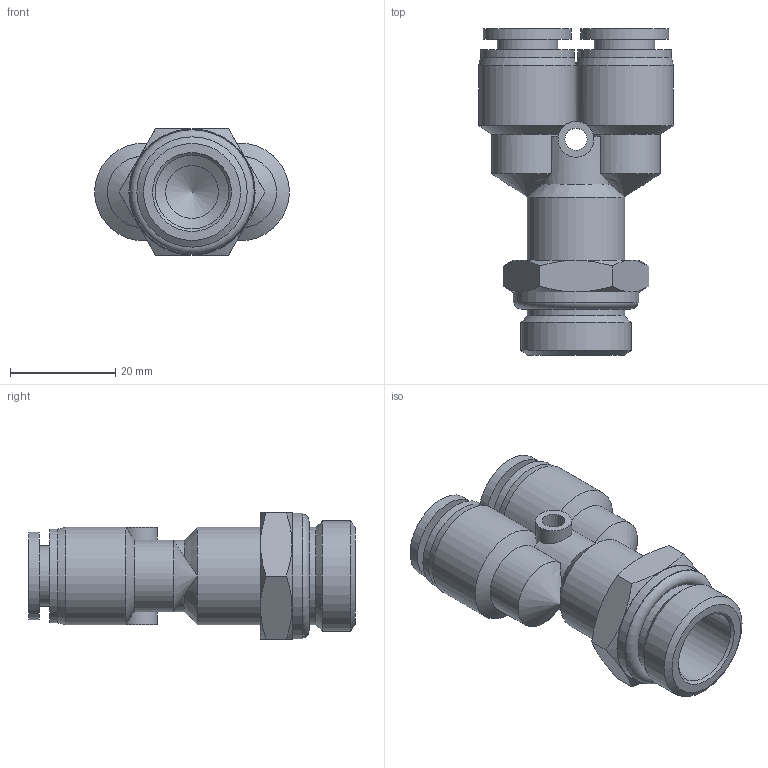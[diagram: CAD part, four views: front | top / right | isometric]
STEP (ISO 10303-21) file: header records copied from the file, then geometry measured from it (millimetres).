
FILE_DESCRIPTION(/* description */ (''),/* implementation_level */ '2;1');
FILE_NAME(/* name */ 'C:\Users\Paola\Desktop\Documenti Konfit\Disegni 3D\RP741210.stp',/* time_stamp */ '2016-04-13T19:13:40+02:00',/* author */ ('Paola'),/* organization */ (''),/* preprocessor_version */ 'ST-DEVELOPER v16.1',/* originating_system */ 'Autodesk Inventor 2016',/* authorisation */ '');
FILE_SCHEMA (('AUTOMOTIVE_DESIGN { 1 0 10303 214 3 1 1 }'));
Length unit declared in the file: millimetre
Products named in the file (1): RP741210
Bounding box: 37 x 62 x 24 mm (x, y, z)
Volume: 16723.4 mm3; surface area: 10022 mm2
Topology: 1 solids, 1 shells, 73 faces, 166 edges, 100 vertices
Faces by surface type: cone 27, cylinder 23, plane 22, torus 1
Full cylindrical faces by diameter (mm): 4.2 x1, 6.8 x2, 10 x3, 11.5 x2, 14 x1, 16.7 x2, 17.8 x2, 18.5 x4, 20.955 x1, 23.8 x1
Entity records: 1994 total; most frequent: CARTESIAN_POINT 517, DIRECTION 295, ORIENTED_EDGE 256, AXIS2_PLACEMENT_3D 140, EDGE_CURVE 127, EDGE_LOOP 109, VERTEX_POINT 90, FACE_OUTER_BOUND 73
